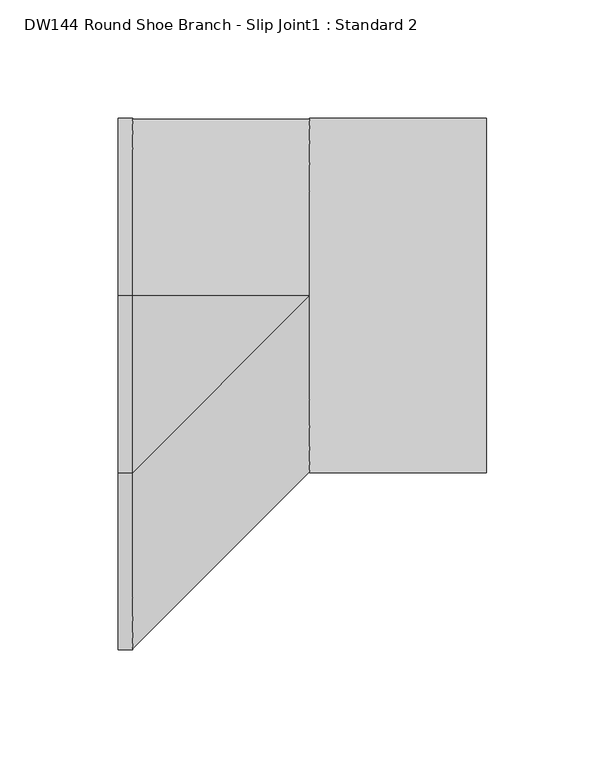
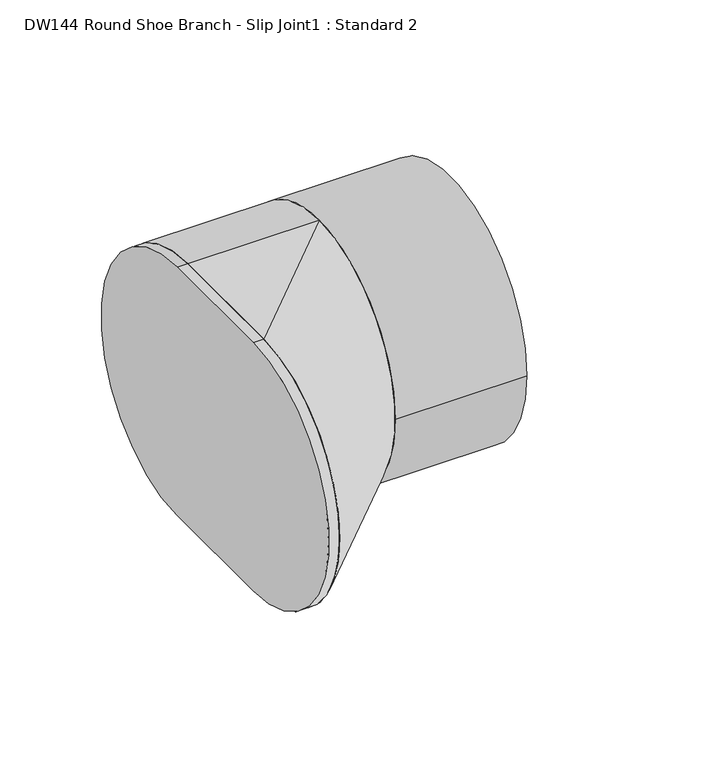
"""IFC4 building model written with IfcOpenShell, lengths in millimetres: duct fitting geometry, DW144 Round Shoe Branch - Slip Joint1 : Standard 2."""

from ifc_helpers import new_model, si_unit, point, frame, frame_2d, origin, origin_2d, place, context, project, spatial, polyline, circle_curve, trimmed, segment, composite_curve, outline, extrude, source, transform, mapped, element, save
from ifc_brep_helpers import plane_surface, cylinder_surface, extruded_surface, advanced_brep


def dw144_round_shoe_branch_slip_joint1_standard_2_f0a60f02(model_context):
    return source(origin(), model_context, "Body", "SolidModel", [
        extrude(outline(composite_curve([segment(trimmed(circle_curve(origin_2d(), 75.0), [point((-75.0, 0.0))], [point((75.0, 0.0))], False, "CARTESIAN"), True, "CONTINUOUS"), segment(trimmed(circle_curve(origin_2d(), 75.0), [point((75.0, 0.0))], [point((-75.0, 0.0))], False, "CARTESIAN"), True, "CONTINUOUS")], self_intersect=False)), frame((75.0, 0.0, 0.0), z_axis=(1.0, 0.0, 0.0), x_axis=(0.0, 1.0, 0.0)), (0.0, 0.0, 1.0), 75.0),
        advanced_brep(
        [(75.0, 0.0, -75.0), (75.0, 0.0, 75.0), (0.0, 0.0, -75.0), (0.0, -75.0, -75.0), (0.0, -75.0, 75.0), (0.0, 0.0, 75.0)],
        [
            (0, 1, circle_curve(frame((75.0, 0.0, 0.0), z_axis=(1.0, 0.0, 0.0), x_axis=(0.0, 1.0, 0.0)), 75.0)),
            (1, 0, circle_curve(frame((75.0, 0.0, 0.0), z_axis=(1.0, 0.0, 0.0), x_axis=(0.0, 1.0, 0.0)), 75.0)),
            (2, 3),
            (3, 4, circle_curve(frame((0.0, -75.0, 0.0), z_axis=(-1.0, 0.0, 0.0), x_axis=(0.0, 1.0, 0.0)), 75.0)),
            (4, 5),
            (5, 2, circle_curve(frame((0.0, 0.0, 0.0), z_axis=(-1.0, 0.0, 0.0), x_axis=(0.0, 1.0, 0.0)), 75.0)),
            (5, 1),
            (0, 2),
            (4, 1),
            (3, 0),
        ],
        [
            plane_surface(frame((75.0, 0.0, 0.0), z_axis=(1.0, 0.0, 0.0), x_axis=(0.0, 1.0, 0.0))),
            plane_surface(frame((0.0, -37.5, 0.0), z_axis=(-1.0, 0.0, 0.0), x_axis=(0.0, 1.0, 0.0))),
            cylinder_surface(frame((0.0, 0.0, 0.0), z_axis=(1.0, 0.0, 0.0), x_axis=(0.0, 1.0, 0.0)), 75.0),
            plane_surface(frame((0.0, -37.5, 75.0), z_axis=(0.0, 0.0, 1.0), x_axis=(0.0, -1.0, 0.0))),
            extruded_surface(trimmed(circle_curve(frame((0.0, -75.0, 0.0), z_axis=(1.0, 0.0, 0.0), x_axis=(0.0, 1.0, 0.0)), 75.0), [point((0.0, -75.0, 75.0))], [point((0.0, -75.0, -75.0))], True, "CARTESIAN"), (75.0, 75.0, 0.0), 106.06601717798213),
            plane_surface(frame((0.0, -37.5, -75.0), z_axis=(0.0, 0.0, -1.0), x_axis=(0.0, 1.0, 0.0))),
        ],
        [
            (0, [[1, 2]]),
            (1, [[3, 4, 5, 6]]),
            (2, [[-6, 7, -1, 8]]),
            (3, [[-5, 9, -7]]),
            (4, [[-4, 10, -2, -9]]),
            (5, [[-3, -8, -10]]),
        ],
    ),
        extrude(outline(composite_curve([segment(polyline([(0.0, -75.0), (-75.0, -75.0)]), True, "CONTINUOUS"), segment(trimmed(circle_curve(frame_2d((-75.0, 0.0)), 75.0), [point((-75.0, -75.0))], [point((-75.0, 75.0))], False, "CARTESIAN"), True, "CONTINUOUS"), segment(polyline([(-75.0, 75.0), (0.0, 75.0)]), True, "CONTINUOUS"), segment(trimmed(circle_curve(origin_2d(), 75.0), [point((0.0, 75.0))], [point((0.0, -75.0))], False, "CARTESIAN"), True, "CONTINUOUS")], self_intersect=False)), frame((-6.096, 0.0, 0.0), z_axis=(1.0, 0.0, 0.0), x_axis=(0.0, 1.0, 0.0)), (0.0, 0.0, 1.0), 6.096),
    ])


if __name__ == "__main__":
    model = new_model("IFC4")
    model_context = context("Model", 3, world=origin())
    ifc_project = project(units=[si_unit("LENGTHUNIT", "METRE", prefix="MILLI")], contexts=[model_context])
    site = spatial("IfcSite", under=ifc_project)
    building = spatial("IfcBuilding", under=site)
    placement = place(None, origin())
    dw144_round_shoe_branch_slip_joint1_standard_2_shape = dw144_round_shoe_branch_slip_joint1_standard_2_f0a60f02(model_context)
    element("IfcDuctFitting", 1, ObjectType="DW144 Round Shoe Branch - Slip Joint1 : Standard 2", at=placement, inside=building, context=model_context, shape_type="MappedRepresentation", body=[
        mapped(dw144_round_shoe_branch_slip_joint1_standard_2_shape, transform((0.0, 0.0, 0.0), x_axis=(1.0, 0.0, 0.0), y_axis=(0.0, 1.0, 0.0), z_axis=(0.0, 0.0, 1.0))),
    ])
    save(model, "model.ifc")
